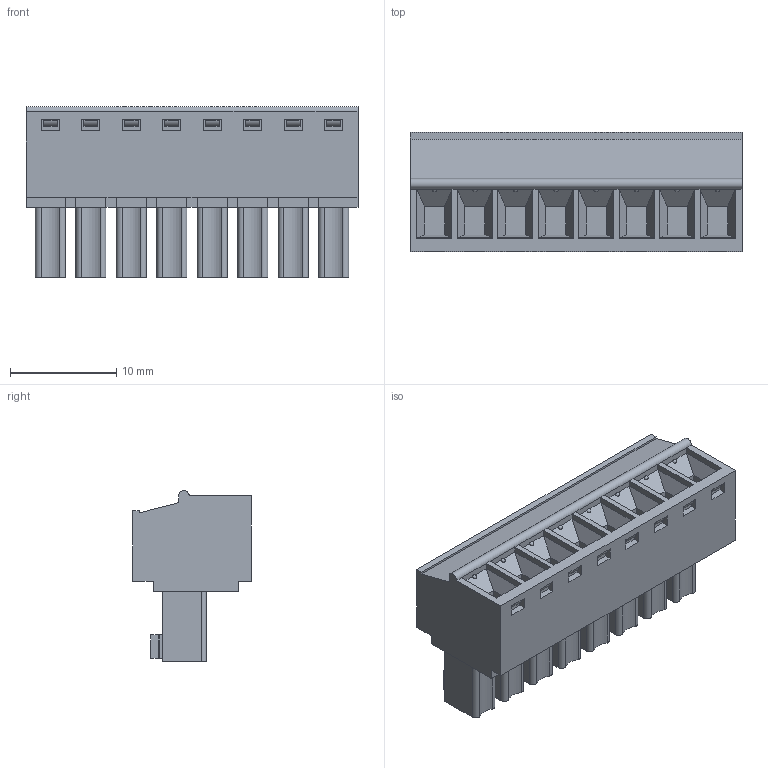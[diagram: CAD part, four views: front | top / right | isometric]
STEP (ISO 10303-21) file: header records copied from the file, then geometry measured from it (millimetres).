
FILE_DESCRIPTION(('FreeCAD Model'),'2;1');
FILE_NAME('Open CASCADE Shape Model','2023-05-24T15:16:28',('Author'),( ''),'Open CASCADE STEP processor 7.6','FreeCAD','Unknown');
FILE_SCHEMA(('AUTOMOTIVE_DESIGN { 1 0 10303 214 1 1 1 1 }'));
Length unit declared in the file: millimetre
Products named in the file (1): BR7F2-08
Bounding box: 31.27 x 11.2 x 16.1 mm (x, y, z)
Volume: 3107.4 mm3; surface area: 3004.1 mm2
Topology: 1 solids, 1 shells, 717 faces, 1739 edges, 1080 vertices
Faces by surface type: plane 428, cylinder 161, cone 80, torus 32, sphere 16
Entity records: 46739 total; most frequent: CARTESIAN_POINT 11449, DIRECTION 6762, LINE 4097, VECTOR 4097, ORIENTED_EDGE 3446, PCURVE 3446, DEFINITIONAL_REPRESENTATION 3446, EDGE_CURVE 1723
